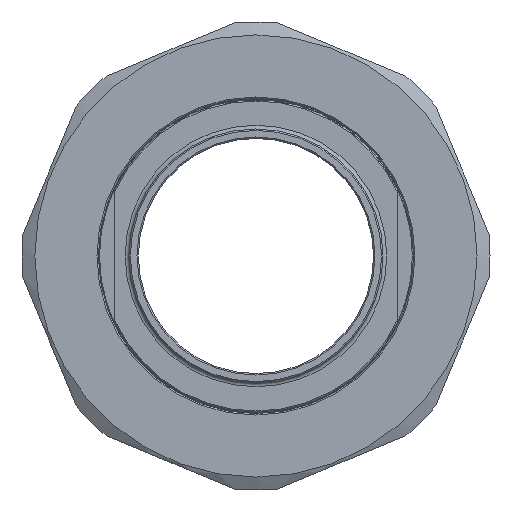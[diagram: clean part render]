
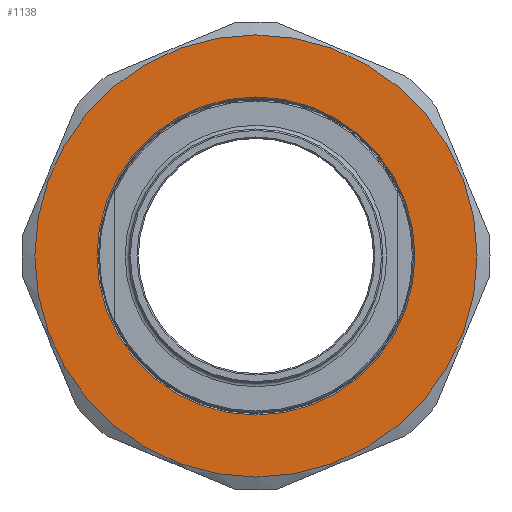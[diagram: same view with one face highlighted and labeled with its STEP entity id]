
A CAD part, left-side view. The second image highlights one B-rep face of the part: STEP entity #1138.
In plain terms, the highlighted planar face has unit normal (-1, 0, 0).
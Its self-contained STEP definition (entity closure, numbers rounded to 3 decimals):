
#36=FACE_BOUND('',#213,.T.);
#100=PLANE('',#1309);
#142=FACE_OUTER_BOUND('',#212,.T.);
#212=EDGE_LOOP('',(#874));
#213=EDGE_LOOP('',(#875));
#404=CIRCLE('',#1289,47.);
#414=CIRCLE('',#1308,33.8);
#510=VERTEX_POINT('',#1944);
#519=VERTEX_POINT('',#1976);
#641=EDGE_CURVE('',#510,#510,#404,.T.);
#654=EDGE_CURVE('',#519,#519,#414,.T.);
#874=ORIENTED_EDGE('',*,*,#641,.T.);
#875=ORIENTED_EDGE('',*,*,#654,.F.);
#1138=ADVANCED_FACE('',(#142,#36),#100,.T.);
#1289=AXIS2_PLACEMENT_3D('',#1946,#1505,#1506);
#1308=AXIS2_PLACEMENT_3D('',#1977,#1546,#1547);
#1309=AXIS2_PLACEMENT_3D('',#1979,#1549,#1550);
#1505=DIRECTION('center_axis',(-1.,0.,0.));
#1506=DIRECTION('ref_axis',(0.,1.,0.));
#1546=DIRECTION('center_axis',(-1.,0.,0.));
#1547=DIRECTION('ref_axis',(0.,0.,-1.));
#1549=DIRECTION('center_axis',(-1.,0.,0.));
#1550=DIRECTION('ref_axis',(0.,0.,1.));
#1944=CARTESIAN_POINT('',(-28.,-47.,0.));
#1946=CARTESIAN_POINT('Origin',(-28.,0.,0.));
#1976=CARTESIAN_POINT('',(-28.,0.,33.8));
#1977=CARTESIAN_POINT('Origin',(-28.,0.,0.));
#1979=CARTESIAN_POINT('Origin',(-28.,0.,0.));
